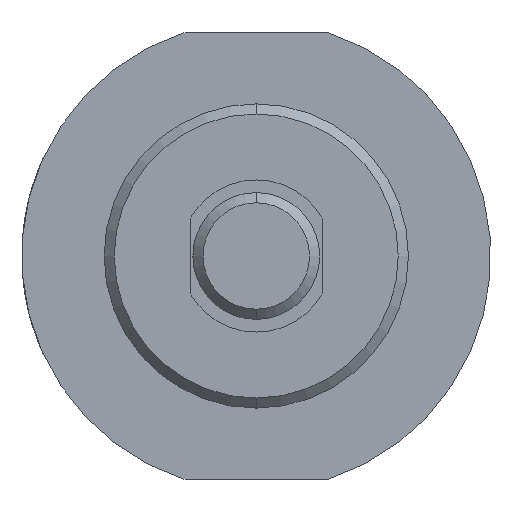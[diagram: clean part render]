
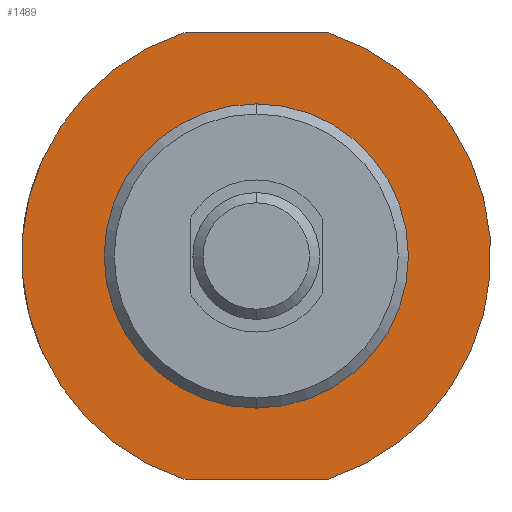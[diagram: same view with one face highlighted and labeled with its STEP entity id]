
A CAD part, left-side view. The second image highlights one B-rep face of the part: STEP entity #1489.
In plain terms, the highlighted planar face has unit normal (-1, 0, 0).
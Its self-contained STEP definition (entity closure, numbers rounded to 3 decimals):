
#10 = CARTESIAN_POINT ( 'NONE',  ( 28., 2.85, 8.8 ) ) ;
#130 = DIRECTION ( 'NONE',  ( 1., 0., 0. ) ) ;
#157 = AXIS2_PLACEMENT_3D ( 'NONE', #310, #1505, #184 ) ;
#168 = VECTOR ( 'NONE', #935, 1000. ) ;
#184 = DIRECTION ( 'NONE',  ( 0., 0., 1. ) ) ;
#200 = DIRECTION ( 'NONE',  ( 0., 0., 1. ) ) ;
#208 = VERTEX_POINT ( 'NONE', #1499 ) ;
#235 = CARTESIAN_POINT ( 'NONE',  ( 28., -2.85, 8.8 ) ) ;
#250 = ORIENTED_EDGE ( 'NONE', *, *, #1582, .T. ) ;
#269 = CIRCLE ( 'NONE', #736, 9.25 ) ;
#284 = VERTEX_POINT ( 'NONE', #1339 ) ;
#310 = CARTESIAN_POINT ( 'NONE',  ( 28., 0., 0. ) ) ;
#322 = CIRCLE ( 'NONE', #1494, 6. ) ;
#388 = PLANE ( 'NONE',  #783 ) ;
#416 = VERTEX_POINT ( 'NONE', #635 ) ;
#421 = CARTESIAN_POINT ( 'NONE',  ( 28., 0., 0. ) ) ;
#441 = EDGE_LOOP ( 'NONE', ( #1552, #1215 ) ) ;
#452 = EDGE_CURVE ( 'NONE', #1168, #416, #1175, .T. ) ;
#469 = CIRCLE ( 'NONE', #157, 6. ) ;
#571 = DIRECTION ( 'NONE',  ( -1., 0., 0. ) ) ;
#580 = EDGE_CURVE ( 'NONE', #208, #416, #269, .T. ) ;
#604 = ORIENTED_EDGE ( 'NONE', *, *, #816, .F. ) ;
#617 = CARTESIAN_POINT ( 'NONE',  ( 28., 6., 0. ) ) ;
#622 = DIRECTION ( 'NONE',  ( -1., 0., 0. ) ) ;
#635 = CARTESIAN_POINT ( 'NONE',  ( 28., 2.85, -8.8 ) ) ;
#688 = FACE_OUTER_BOUND ( 'NONE', #1342, .T. ) ;
#736 = AXIS2_PLACEMENT_3D ( 'NONE', #1034, #571, #1377 ) ;
#783 = AXIS2_PLACEMENT_3D ( 'NONE', #617, #130, #1421 ) ;
#816 = EDGE_CURVE ( 'NONE', #208, #1322, #1526, .T. ) ;
#821 = ORIENTED_EDGE ( 'NONE', *, *, #580, .T. ) ;
#848 = CARTESIAN_POINT ( 'NONE',  ( 28., 0., 0. ) ) ;
#853 = VERTEX_POINT ( 'NONE', #1350 ) ;
#906 = CARTESIAN_POINT ( 'NONE',  ( 28., 2.85, -8.8 ) ) ;
#935 = DIRECTION ( 'NONE',  ( 0., -1., 0. ) ) ;
#947 = EDGE_CURVE ( 'NONE', #284, #853, #322, .T. ) ;
#951 = CIRCLE ( 'NONE', #1109, 9.25 ) ;
#1034 = CARTESIAN_POINT ( 'NONE',  ( 28., 0., 0. ) ) ;
#1109 = AXIS2_PLACEMENT_3D ( 'NONE', #421, #622, #1428 ) ;
#1122 = CARTESIAN_POINT ( 'NONE',  ( 28., -2.85, -8.8 ) ) ;
#1168 = VERTEX_POINT ( 'NONE', #1122 ) ;
#1175 = LINE ( 'NONE', #906, #1400 ) ;
#1212 = EDGE_CURVE ( 'NONE', #853, #284, #469, .T. ) ;
#1215 = ORIENTED_EDGE ( 'NONE', *, *, #947, .F. ) ;
#1322 = VERTEX_POINT ( 'NONE', #235 ) ;
#1339 = CARTESIAN_POINT ( 'NONE',  ( 28., 0., -6. ) ) ;
#1342 = EDGE_LOOP ( 'NONE', ( #250, #604, #821, #1466 ) ) ;
#1350 = CARTESIAN_POINT ( 'NONE',  ( 28., 0., 6. ) ) ;
#1377 = DIRECTION ( 'NONE',  ( 0., 0., 1. ) ) ;
#1381 = DIRECTION ( 'NONE',  ( -1., 0., 0. ) ) ;
#1400 = VECTOR ( 'NONE', #1586, 1000. ) ;
#1421 = DIRECTION ( 'NONE',  ( 0., 0., -1. ) ) ;
#1428 = DIRECTION ( 'NONE',  ( 0., 0., 1. ) ) ;
#1466 = ORIENTED_EDGE ( 'NONE', *, *, #452, .F. ) ;
#1475 = FACE_BOUND ( 'NONE', #441, .T. ) ;
#1489 = ADVANCED_FACE ( 'NONE', ( #1475, #688 ), #388, .F. ) ;
#1494 = AXIS2_PLACEMENT_3D ( 'NONE', #848, #1381, #200 ) ;
#1499 = CARTESIAN_POINT ( 'NONE',  ( 28., 2.85, 8.8 ) ) ;
#1505 = DIRECTION ( 'NONE',  ( -1., 0., 0. ) ) ;
#1526 = LINE ( 'NONE', #10, #168 ) ;
#1552 = ORIENTED_EDGE ( 'NONE', *, *, #1212, .F. ) ;
#1582 = EDGE_CURVE ( 'NONE', #1168, #1322, #951, .T. ) ;
#1586 = DIRECTION ( 'NONE',  ( 0., 1., 0. ) ) ;
